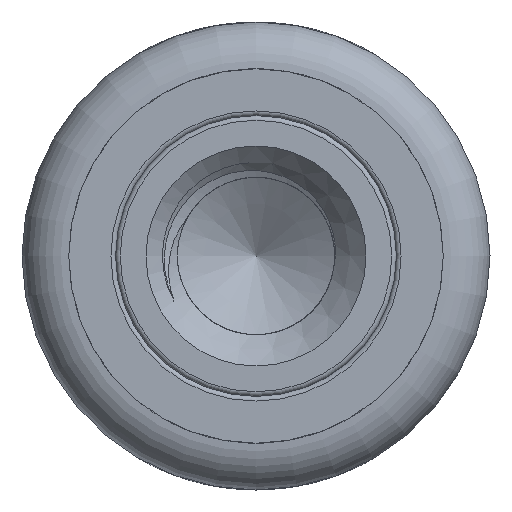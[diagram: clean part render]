
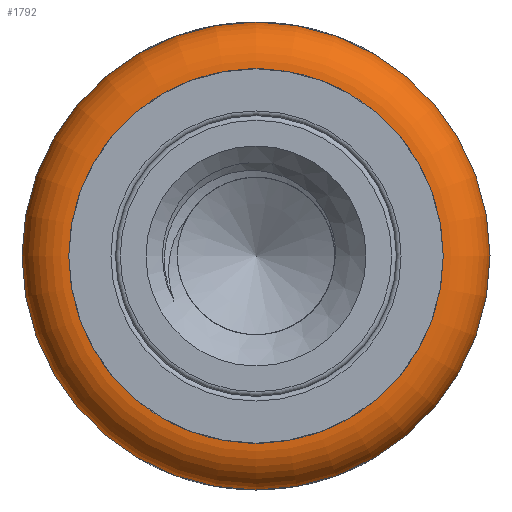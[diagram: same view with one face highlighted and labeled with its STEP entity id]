
A CAD part, front view. The second image highlights one B-rep face of the part: STEP entity #1792.
In plain terms, the highlighted toroidal (fillet/blend) face has major radius 12 mm and minor radius 3 mm.
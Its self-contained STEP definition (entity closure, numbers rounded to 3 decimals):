
#57=TOROIDAL_SURFACE('',#2070,12.,3.);
#213=FACE_OUTER_BOUND('',#473,.T.);
#276=CIRCLE('',#2026,15.);
#277=CIRCLE('',#2027,15.);
#278=CIRCLE('',#2028,15.);
#304=CIRCLE('',#2068,12.);
#305=CIRCLE('',#2069,12.);
#306=CIRCLE('',#2071,3.);
#473=EDGE_LOOP('',(#1550,#1551,#1552,#1553,#1554,#1555,#1556));
#811=VERTEX_POINT('',#12949);
#812=VERTEX_POINT('',#12951);
#813=VERTEX_POINT('',#12953);
#836=VERTEX_POINT('',#13025);
#837=VERTEX_POINT('',#13026);
#1053=EDGE_CURVE('',#811,#812,#276,.T.);
#1054=EDGE_CURVE('',#812,#813,#277,.T.);
#1055=EDGE_CURVE('',#813,#811,#278,.T.);
#1089=EDGE_CURVE('',#836,#837,#304,.T.);
#1090=EDGE_CURVE('',#837,#836,#305,.T.);
#1091=EDGE_CURVE('',#812,#837,#306,.T.);
#1550=ORIENTED_EDGE('',*,*,#1055,.F.);
#1551=ORIENTED_EDGE('',*,*,#1054,.F.);
#1552=ORIENTED_EDGE('',*,*,#1091,.T.);
#1553=ORIENTED_EDGE('',*,*,#1090,.T.);
#1554=ORIENTED_EDGE('',*,*,#1089,.T.);
#1555=ORIENTED_EDGE('',*,*,#1091,.F.);
#1556=ORIENTED_EDGE('',*,*,#1053,.F.);
#1792=ADVANCED_FACE('',(#213),#57,.T.);
#2026=AXIS2_PLACEMENT_3D('',#12952,#2413,#2414);
#2027=AXIS2_PLACEMENT_3D('',#12954,#2415,#2416);
#2028=AXIS2_PLACEMENT_3D('',#12955,#2417,#2418);
#2068=AXIS2_PLACEMENT_3D('',#13027,#2505,#2506);
#2069=AXIS2_PLACEMENT_3D('',#13028,#2507,#2508);
#2070=AXIS2_PLACEMENT_3D('',#13029,#2509,#2510);
#2071=AXIS2_PLACEMENT_3D('',#13030,#2511,#2512);
#2413=DIRECTION('center_axis',(0.,1.,0.));
#2414=DIRECTION('ref_axis',(1.,0.,0.));
#2415=DIRECTION('center_axis',(0.,1.,0.));
#2416=DIRECTION('ref_axis',(1.,0.,0.));
#2417=DIRECTION('center_axis',(0.,1.,0.));
#2418=DIRECTION('ref_axis',(1.,0.,0.));
#2505=DIRECTION('center_axis',(0.,1.,0.));
#2506=DIRECTION('ref_axis',(1.,0.,0.));
#2507=DIRECTION('center_axis',(0.,1.,0.));
#2508=DIRECTION('ref_axis',(1.,0.,0.));
#2509=DIRECTION('center_axis',(0.,1.,0.));
#2510=DIRECTION('ref_axis',(0.,0.,1.));
#2511=DIRECTION('center_axis',(-1.,0.,0.));
#2512=DIRECTION('ref_axis',(0.,0.,-1.));
#12949=CARTESIAN_POINT('',(15.,-82.,0.));
#12951=CARTESIAN_POINT('',(0.,-82.,-15.));
#12952=CARTESIAN_POINT('Origin',(0.,-82.,0.));
#12953=CARTESIAN_POINT('',(-15.,-82.,0.));
#12954=CARTESIAN_POINT('Origin',(0.,-82.,0.));
#12955=CARTESIAN_POINT('Origin',(0.,-82.,0.));
#13025=CARTESIAN_POINT('',(-12.,-85.,0.));
#13026=CARTESIAN_POINT('',(0.,-85.,-12.));
#13027=CARTESIAN_POINT('Origin',(0.,-85.,0.));
#13028=CARTESIAN_POINT('Origin',(0.,-85.,0.));
#13029=CARTESIAN_POINT('Origin',(0.,-82.,0.));
#13030=CARTESIAN_POINT('Origin',(0.,-82.,-12.));
